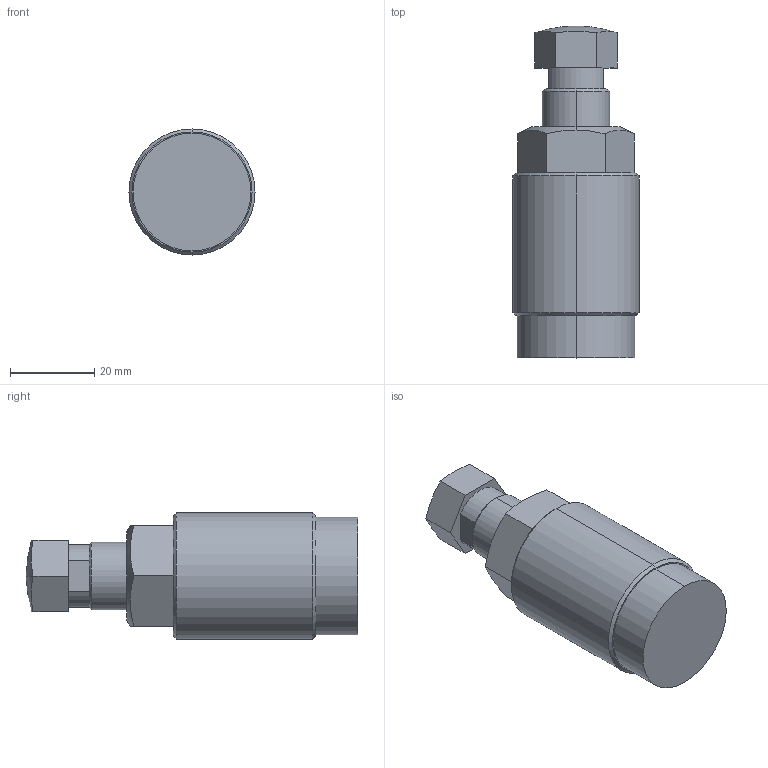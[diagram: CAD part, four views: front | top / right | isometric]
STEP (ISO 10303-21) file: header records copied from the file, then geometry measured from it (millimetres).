
FILE_DESCRIPTION (( 'STEP AP214' ), '1' );
FILE_NAME ('SP-16A1.STEP', '2021-10-19T00:31:11', ( '' ), ( '' ), 'SwSTEP 2.0', 'SolidWorks 2016', '' );
FILE_SCHEMA (( 'AUTOMOTIVE_DESIGN' ));
Length unit declared in the file: millimetre
Products named in the file (1): SP-16A1
Bounding box: 30 x 79 x 30 mm (x, y, z)
Volume: 39668.9 mm3; surface area: 8109.8 mm2
Topology: 1 solids, 2 shells, 45 faces, 100 edges, 61 vertices
Faces by surface type: plane 22, cylinder 11, cone 10, sphere 2
Entity records: 1355 total; most frequent: CARTESIAN_POINT 273, DIRECTION 221, ORIENTED_EDGE 196, EDGE_CURVE 98, AXIS2_PLACEMENT_3D 85, VERTEX_POINT 61, LINE 51, VECTOR 51
